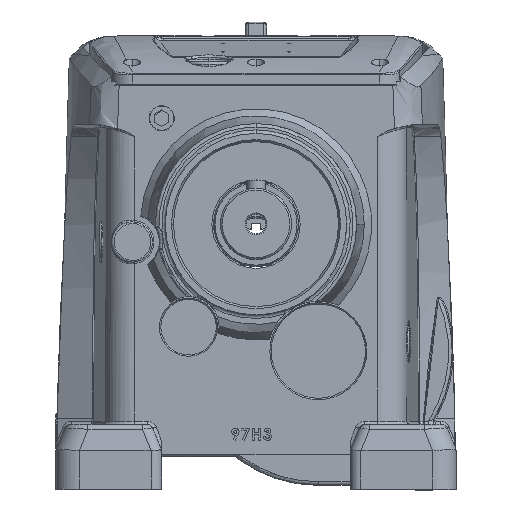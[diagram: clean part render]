
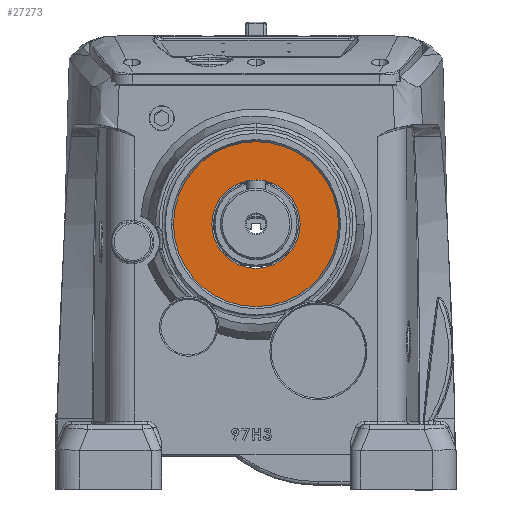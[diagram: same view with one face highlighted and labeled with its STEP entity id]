
A CAD part, top view. The second image highlights one B-rep face of the part: STEP entity #27273.
In plain terms, the highlighted planar face has unit normal (0, 0, 1).
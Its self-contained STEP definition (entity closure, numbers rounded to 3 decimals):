
#8791 = CIRCLE ( 'NONE', #8792, 37.5 ) ;
#8792 = AXIS2_PLACEMENT_3D ( 'NONE', #18645, #18698, #18671 ) ;
#8793 = CIRCLE ( 'NONE', #8794, 37.5 ) ;
#8794 = AXIS2_PLACEMENT_3D ( 'NONE', #18647, #18646, #17824 ) ;
#15785 = EDGE_CURVE ( 'NONE', #28101, #28094, #8791, .T. ) ;
#15786 = EDGE_CURVE ( 'NONE', #28094, #28101, #8793, .T. ) ;
#15832 = EDGE_CURVE ( 'NONE', #48161, #28091, #68715, .T. ) ;
#15883 = EDGE_CURVE ( 'NONE', #28091, #48161, #68772, .T. ) ;
#17687 = CARTESIAN_POINT ( 'NONE',  ( 0., 0., 14. ) ) ;
#17688 = DIRECTION ( 'NONE',  ( 1., 0., 0. ) ) ;
#17689 = DIRECTION ( 'NONE',  ( 0., 0., 1. ) ) ;
#17824 = DIRECTION ( 'NONE',  ( 1., 0., 0. ) ) ;
#18645 = CARTESIAN_POINT ( 'NONE',  ( 0., 0., 14. ) ) ;
#18646 = DIRECTION ( 'NONE',  ( 0., 0., 1. ) ) ;
#18647 = CARTESIAN_POINT ( 'NONE',  ( 0., 0., 14. ) ) ;
#18671 = DIRECTION ( 'NONE',  ( 1., 0., 0. ) ) ;
#18698 = DIRECTION ( 'NONE',  ( 0., 0., 1. ) ) ;
#22758 = CARTESIAN_POINT ( 'NONE',  ( 70., 0., 14. ) ) ;
#22763 = CARTESIAN_POINT ( 'NONE',  ( 37.5, 0., 14. ) ) ;
#22832 = CARTESIAN_POINT ( 'NONE',  ( -37.5, 0., 14. ) ) ;
#25536 = EDGE_LOOP ( 'NONE', ( #31826, #31797 ) ) ;
#25558 = EDGE_LOOP ( 'NONE', ( #31827, #31848 ) ) ;
#27273 = ADVANCED_FACE ( 'NONE', ( #36822, #36823 ), #46162, .F. ) ;
#28091 = VERTEX_POINT ( 'NONE', #22758 ) ;
#28094 = VERTEX_POINT ( 'NONE', #22763 ) ;
#28101 = VERTEX_POINT ( 'NONE', #22832 ) ;
#31797 = ORIENTED_EDGE ( 'NONE', *, *, #15832, .T. ) ;
#31826 = ORIENTED_EDGE ( 'NONE', *, *, #15883, .T. ) ;
#31827 = ORIENTED_EDGE ( 'NONE', *, *, #15786, .F. ) ;
#31848 = ORIENTED_EDGE ( 'NONE', *, *, #15785, .F. ) ;
#36822 = FACE_BOUND ( 'NONE', #25558, .T. ) ;
#36823 = FACE_OUTER_BOUND ( 'NONE', #25536, .T. ) ;
#46162 = PLANE ( 'NONE',  #67042 ) ;
#46163 = CARTESIAN_POINT ( 'NONE',  ( 0., 70., 14. ) ) ;
#46164 = DIRECTION ( 'NONE',  ( 0., 0., -1. ) ) ;
#46165 = DIRECTION ( 'NONE',  ( -1., 0., 0. ) ) ;
#48161 = VERTEX_POINT ( 'NONE', #69495 ) ;
#50157 = DIRECTION ( 'NONE',  ( 0., 0., 1. ) ) ;
#50158 = DIRECTION ( 'NONE',  ( 1., 0., 0. ) ) ;
#50160 = CARTESIAN_POINT ( 'NONE',  ( 0., 0., 14. ) ) ;
#67042 = AXIS2_PLACEMENT_3D ( 'NONE', #46163, #46164, #46165 ) ;
#68715 = CIRCLE ( 'NONE', #68717, 70. ) ;
#68717 = AXIS2_PLACEMENT_3D ( 'NONE', #17687, #17689, #17688 ) ;
#68772 = CIRCLE ( 'NONE', #68777, 70. ) ;
#68777 = AXIS2_PLACEMENT_3D ( 'NONE', #50160, #50157, #50158 ) ;
#69495 = CARTESIAN_POINT ( 'NONE',  ( -70., 0., 14. ) ) ;
